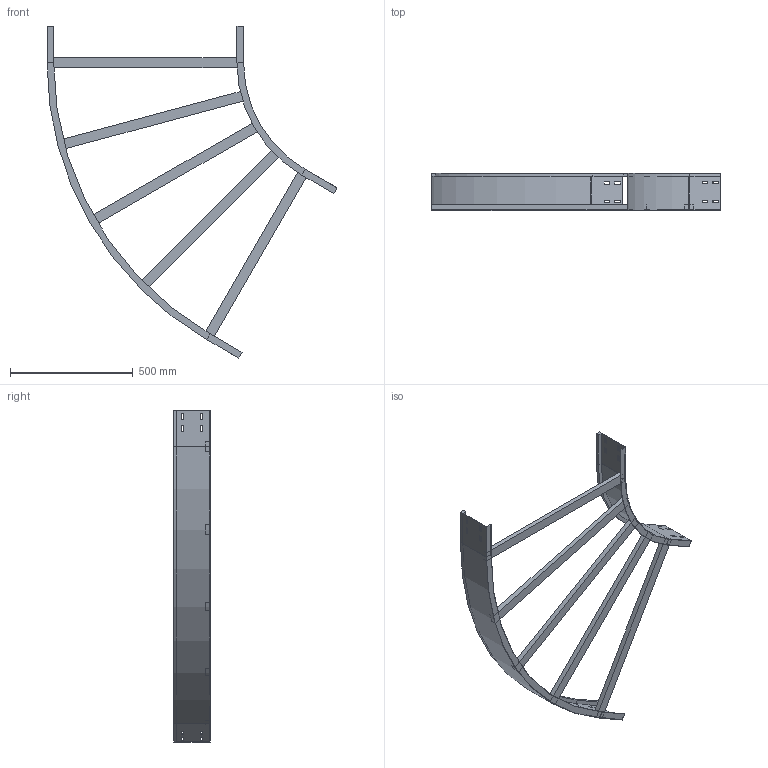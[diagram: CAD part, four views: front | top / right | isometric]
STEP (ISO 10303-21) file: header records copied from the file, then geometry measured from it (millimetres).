
FILE_DESCRIPTION (( 'STEP AP214' ), '1' );
FILE_NAME ('13J5F800.step', '2025-02-21T16:24:58', ( '' ), ( '' ), 'SwSTEP 2.0', 'SolidWorks 2023', '' );
FILE_SCHEMA (( 'AUTOMOTIVE_DESIGN' ));
Length unit declared in the file: millimetre
Products named in the file (4): LONGH.ESTERNO 60°_H150_R500+800; TRAVERSINO_800; 13J5F800; LONGH.INTERNO 60°_H150_R500
Assembly tree (7 placements, depth 2):
  13J5F800
    LONGH.INTERNO 60°_H150_R500
    LONGH.ESTERNO 60°_H150_R500+800
    TRAVERSINO_800  x5
Bounding box: 1179.9 x 150 x 1350.83 mm (x, y, z)
Volume: 4563445.9 mm3; surface area: 1446016.9 mm2
Topology: 7 solids, 7 shells, 146 faces, 364 edges, 232 vertices
Faces by surface type: plane 138, cylinder 8
Entity records: 3837 total; most frequent: CARTESIAN_POINT 648, ORIENTED_EDGE 632, DIRECTION 596, EDGE_CURVE 316, LINE 300, VECTOR 300, VERTEX_POINT 200, EDGE_LOOP 154
